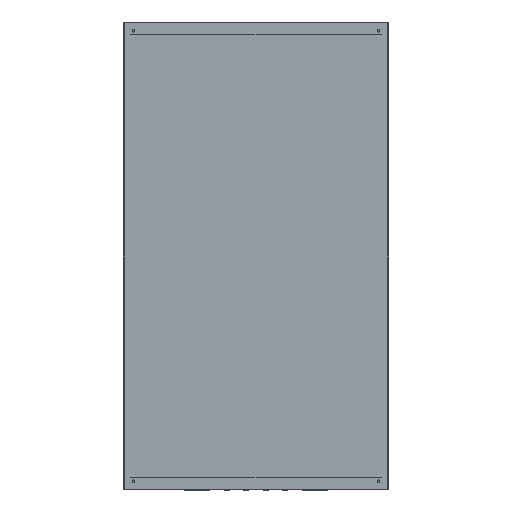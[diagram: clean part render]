
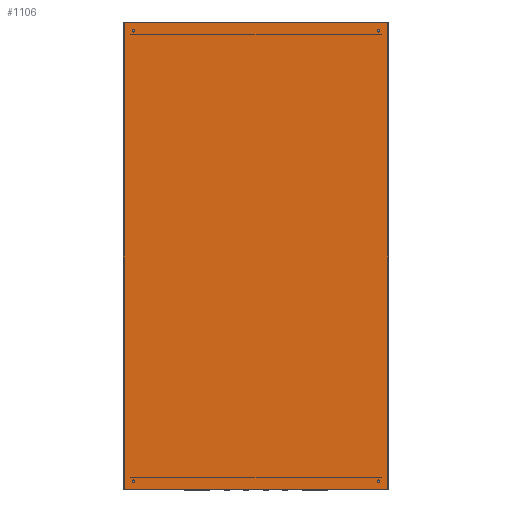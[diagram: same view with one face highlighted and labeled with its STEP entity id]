
A CAD part, front view. The second image highlights one B-rep face of the part: STEP entity #1106.
In plain terms, the highlighted planar face has unit normal (0, -1, 0).
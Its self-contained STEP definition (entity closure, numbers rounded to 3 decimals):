
#117 = VECTOR ( 'NONE', #1541, 1000. ) ;
#237 = CARTESIAN_POINT ( 'NONE',  ( -345., 0., -635. ) ) ;
#302 = EDGE_LOOP ( 'NONE', ( #1130, #3318 ) ) ;
#338 = ORIENTED_EDGE ( 'NONE', *, *, #10549, .T. ) ;
#366 = AXIS2_PLACEMENT_3D ( 'NONE', #7721, #874, #4370 ) ;
#500 = FACE_BOUND ( 'NONE', #538, .T. ) ;
#538 = EDGE_LOOP ( 'NONE', ( #8852, #4073 ) ) ;
#608 = AXIS2_PLACEMENT_3D ( 'NONE', #8243, #3852, #3033 ) ;
#673 = VERTEX_POINT ( 'NONE', #1746 ) ;
#769 = VERTEX_POINT ( 'NONE', #2001 ) ;
#836 = CIRCLE ( 'NONE', #2404, 3.25 ) ;
#874 = DIRECTION ( 'NONE',  ( 0., 1., 0. ) ) ;
#1062 = DIRECTION ( 'NONE',  ( 0., 1., 0. ) ) ;
#1099 = DIRECTION ( 'NONE',  ( -1., 0., 0. ) ) ;
#1106 = ADVANCED_FACE ( 'NONE', ( #9959, #9697, #2477, #7402, #500 ), #4837, .T. ) ;
#1130 = ORIENTED_EDGE ( 'NONE', *, *, #3165, .T. ) ;
#1211 = VECTOR ( 'NONE', #9714, 1000. ) ;
#1481 = AXIS2_PLACEMENT_3D ( 'NONE', #5862, #1519, #5827 ) ;
#1519 = DIRECTION ( 'NONE',  ( 0., 1., 0. ) ) ;
#1541 = DIRECTION ( 'NONE',  ( -1., 0., 0. ) ) ;
#1623 = CIRCLE ( 'NONE', #366, 3.25 ) ;
#1634 = VECTOR ( 'NONE', #6257, 1000. ) ;
#1746 = CARTESIAN_POINT ( 'NONE',  ( -371.8, 0., -657.8 ) ) ;
#1835 = DIRECTION ( 'NONE',  ( 1., 0., 0. ) ) ;
#1974 = CIRCLE ( 'NONE', #1481, 3.25 ) ;
#1997 = AXIS2_PLACEMENT_3D ( 'NONE', #237, #2860, #5602 ) ;
#2001 = CARTESIAN_POINT ( 'NONE',  ( -371.8, 0., 657.8 ) ) ;
#2002 = CIRCLE ( 'NONE', #9890, 3.25 ) ;
#2292 = AXIS2_PLACEMENT_3D ( 'NONE', #10950, #9145, #10878 ) ;
#2317 = CARTESIAN_POINT ( 'NONE',  ( -341.75, 0., -635. ) ) ;
#2404 = AXIS2_PLACEMENT_3D ( 'NONE', #8014, #6379, #1835 ) ;
#2477 = FACE_BOUND ( 'NONE', #302, .T. ) ;
#2713 = ORIENTED_EDGE ( 'NONE', *, *, #3247, .T. ) ;
#2764 = CARTESIAN_POINT ( 'NONE',  ( 371.8, 0., -657.8 ) ) ;
#2788 = CARTESIAN_POINT ( 'NONE',  ( -371.8, 0., 657.8 ) ) ;
#2860 = DIRECTION ( 'NONE',  ( 0., 1., 0. ) ) ;
#2865 = EDGE_CURVE ( 'NONE', #5659, #5758, #10827, .T. ) ;
#2999 = CARTESIAN_POINT ( 'NONE',  ( 341.75, 0., -635. ) ) ;
#3033 = DIRECTION ( 'NONE',  ( -1., 0., 0. ) ) ;
#3061 = CIRCLE ( 'NONE', #608, 3.25 ) ;
#3097 = CARTESIAN_POINT ( 'NONE',  ( 371.8, 0., -657.8 ) ) ;
#3165 = EDGE_CURVE ( 'NONE', #7271, #6722, #1623, .T. ) ;
#3247 = EDGE_CURVE ( 'NONE', #769, #673, #10161, .T. ) ;
#3318 = ORIENTED_EDGE ( 'NONE', *, *, #5204, .T. ) ;
#3358 = ORIENTED_EDGE ( 'NONE', *, *, #9617, .T. ) ;
#3684 = EDGE_CURVE ( 'NONE', #6611, #8866, #5291, .T. ) ;
#3723 = EDGE_CURVE ( 'NONE', #5758, #5659, #2002, .T. ) ;
#3852 = DIRECTION ( 'NONE',  ( 0., 1., 0. ) ) ;
#3905 = EDGE_CURVE ( 'NONE', #8866, #6611, #3061, .T. ) ;
#4073 = ORIENTED_EDGE ( 'NONE', *, *, #2865, .T. ) ;
#4153 = CARTESIAN_POINT ( 'NONE',  ( 371.8, 0., 657.8 ) ) ;
#4214 = CARTESIAN_POINT ( 'NONE',  ( 371.8, 0., 657.8 ) ) ;
#4370 = DIRECTION ( 'NONE',  ( 1., 0., 0. ) ) ;
#4435 = DIRECTION ( 'NONE',  ( -1., 0., 0. ) ) ;
#4498 = CIRCLE ( 'NONE', #1997, 3.25 ) ;
#4512 = EDGE_CURVE ( 'NONE', #8875, #8898, #1974, .T. ) ;
#4747 = VERTEX_POINT ( 'NONE', #2764 ) ;
#4837 = PLANE ( 'NONE',  #9699 ) ;
#4999 = CARTESIAN_POINT ( 'NONE',  ( -348.25, 0., -635. ) ) ;
#5038 = CARTESIAN_POINT ( 'NONE',  ( 348.25, 0., 635. ) ) ;
#5181 = VECTOR ( 'NONE', #6728, 1000. ) ;
#5204 = EDGE_CURVE ( 'NONE', #6722, #7271, #836, .T. ) ;
#5291 = CIRCLE ( 'NONE', #9521, 3.25 ) ;
#5602 = DIRECTION ( 'NONE',  ( 1., 0., 0. ) ) ;
#5603 = LINE ( 'NONE', #3097, #5181 ) ;
#5659 = VERTEX_POINT ( 'NONE', #7998 ) ;
#5694 = EDGE_CURVE ( 'NONE', #8898, #8875, #4498, .T. ) ;
#5758 = VERTEX_POINT ( 'NONE', #2999 ) ;
#5827 = DIRECTION ( 'NONE',  ( 1., 0., 0. ) ) ;
#5862 = CARTESIAN_POINT ( 'NONE',  ( -345., 0., -635. ) ) ;
#5997 = LINE ( 'NONE', #8000, #1634 ) ;
#6098 = CARTESIAN_POINT ( 'NONE',  ( 345., 0., 635. ) ) ;
#6257 = DIRECTION ( 'NONE',  ( 1., 0., 0. ) ) ;
#6336 = VERTEX_POINT ( 'NONE', #4214 ) ;
#6379 = DIRECTION ( 'NONE',  ( 0., 1., 0. ) ) ;
#6528 = DIRECTION ( 'NONE',  ( 0., -1., 0. ) ) ;
#6611 = VERTEX_POINT ( 'NONE', #8141 ) ;
#6722 = VERTEX_POINT ( 'NONE', #7509 ) ;
#6728 = DIRECTION ( 'NONE',  ( 0., 0., 1. ) ) ;
#7271 = VERTEX_POINT ( 'NONE', #8657 ) ;
#7402 = FACE_BOUND ( 'NONE', #9635, .T. ) ;
#7509 = CARTESIAN_POINT ( 'NONE',  ( -348.25, 0., 635. ) ) ;
#7721 = CARTESIAN_POINT ( 'NONE',  ( -345., 0., 635. ) ) ;
#7998 = CARTESIAN_POINT ( 'NONE',  ( 348.25, 0., -635. ) ) ;
#8000 = CARTESIAN_POINT ( 'NONE',  ( -371.8, 0., -657.8 ) ) ;
#8014 = CARTESIAN_POINT ( 'NONE',  ( -345., 0., 635. ) ) ;
#8141 = CARTESIAN_POINT ( 'NONE',  ( 341.75, 0., 635. ) ) ;
#8243 = CARTESIAN_POINT ( 'NONE',  ( 345., 0., 635. ) ) ;
#8495 = ORIENTED_EDGE ( 'NONE', *, *, #5694, .T. ) ;
#8573 = ORIENTED_EDGE ( 'NONE', *, *, #4512, .T. ) ;
#8657 = CARTESIAN_POINT ( 'NONE',  ( -341.75, 0., 635. ) ) ;
#8741 = ORIENTED_EDGE ( 'NONE', *, *, #9076, .T. ) ;
#8852 = ORIENTED_EDGE ( 'NONE', *, *, #3723, .T. ) ;
#8866 = VERTEX_POINT ( 'NONE', #5038 ) ;
#8875 = VERTEX_POINT ( 'NONE', #4999 ) ;
#8898 = VERTEX_POINT ( 'NONE', #2317 ) ;
#9067 = DIRECTION ( 'NONE',  ( -1., 0., 0. ) ) ;
#9076 = EDGE_CURVE ( 'NONE', #673, #4747, #5997, .T. ) ;
#9145 = DIRECTION ( 'NONE',  ( 0., 1., 0. ) ) ;
#9475 = LINE ( 'NONE', #4153, #117 ) ;
#9521 = AXIS2_PLACEMENT_3D ( 'NONE', #6098, #9543, #4435 ) ;
#9543 = DIRECTION ( 'NONE',  ( 0., 1., 0. ) ) ;
#9617 = EDGE_CURVE ( 'NONE', #4747, #6336, #5603, .T. ) ;
#9635 = EDGE_LOOP ( 'NONE', ( #10330, #10821 ) ) ;
#9697 = FACE_BOUND ( 'NONE', #9790, .T. ) ;
#9699 = AXIS2_PLACEMENT_3D ( 'NONE', #10803, #6528, #9067 ) ;
#9714 = DIRECTION ( 'NONE',  ( 0., 0., -1. ) ) ;
#9790 = EDGE_LOOP ( 'NONE', ( #8495, #8573 ) ) ;
#9890 = AXIS2_PLACEMENT_3D ( 'NONE', #10574, #1062, #1099 ) ;
#9959 = FACE_OUTER_BOUND ( 'NONE', #10546, .T. ) ;
#10161 = LINE ( 'NONE', #2788, #1211 ) ;
#10330 = ORIENTED_EDGE ( 'NONE', *, *, #3684, .T. ) ;
#10546 = EDGE_LOOP ( 'NONE', ( #338, #2713, #8741, #3358 ) ) ;
#10549 = EDGE_CURVE ( 'NONE', #6336, #769, #9475, .T. ) ;
#10574 = CARTESIAN_POINT ( 'NONE',  ( 345., 0., -635. ) ) ;
#10803 = CARTESIAN_POINT ( 'NONE',  ( -372.8, 0., -660. ) ) ;
#10821 = ORIENTED_EDGE ( 'NONE', *, *, #3905, .T. ) ;
#10827 = CIRCLE ( 'NONE', #2292, 3.25 ) ;
#10878 = DIRECTION ( 'NONE',  ( -1., 0., 0. ) ) ;
#10950 = CARTESIAN_POINT ( 'NONE',  ( 345., 0., -635. ) ) ;
